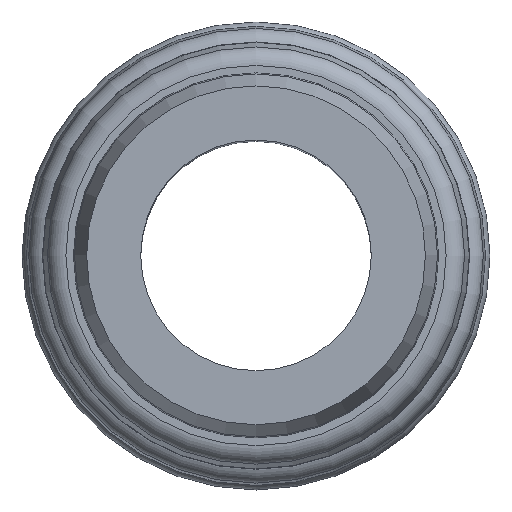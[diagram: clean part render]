
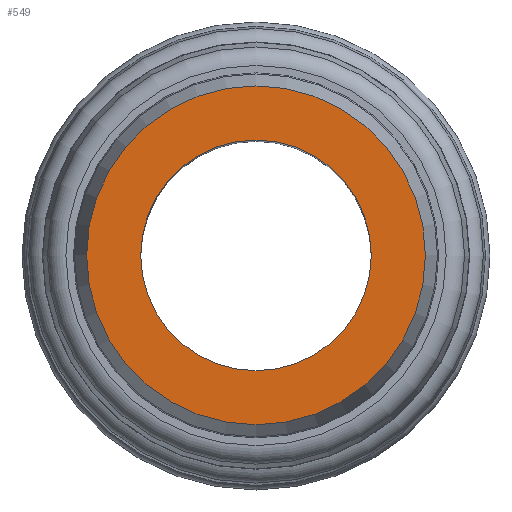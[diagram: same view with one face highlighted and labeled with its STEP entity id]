
A CAD part, top view. The second image highlights one B-rep face of the part: STEP entity #549.
In plain terms, the highlighted planar face has unit normal (0, 0, 1).
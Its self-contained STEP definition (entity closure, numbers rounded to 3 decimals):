
#33=FACE_BOUND('',#176,.T.);
#47=PLANE('',#660);
#123=FACE_OUTER_BOUND('',#175,.T.);
#175=EDGE_LOOP('',(#483));
#176=EDGE_LOOP('',(#484));
#237=CIRCLE('',#654,9.);
#239=CIRCLE('',#661,6.125);
#283=VERTEX_POINT('',#1019);
#285=VERTEX_POINT('',#1032);
#348=EDGE_CURVE('',#283,#283,#237,.T.);
#353=EDGE_CURVE('',#285,#285,#239,.T.);
#483=ORIENTED_EDGE('',*,*,#348,.F.);
#484=ORIENTED_EDGE('',*,*,#353,.T.);
#549=ADVANCED_FACE('',(#123,#33),#47,.F.);
#654=AXIS2_PLACEMENT_3D('',#1021,#848,#849);
#660=AXIS2_PLACEMENT_3D('',#1031,#863,#864);
#661=AXIS2_PLACEMENT_3D('',#1033,#865,#866);
#848=DIRECTION('center_axis',(0.,0.,-1.));
#849=DIRECTION('ref_axis',(1.,0.,0.));
#863=DIRECTION('center_axis',(0.,0.,-1.));
#864=DIRECTION('ref_axis',(1.,0.,0.));
#865=DIRECTION('center_axis',(0.,0.,-1.));
#866=DIRECTION('ref_axis',(1.,0.,0.));
#1019=CARTESIAN_POINT('',(-9.,0.,40.));
#1021=CARTESIAN_POINT('Origin',(0.,0.,40.));
#1031=CARTESIAN_POINT('Origin',(0.,0.,40.));
#1032=CARTESIAN_POINT('',(-6.125,0.,40.));
#1033=CARTESIAN_POINT('Origin',(0.,0.,40.));
